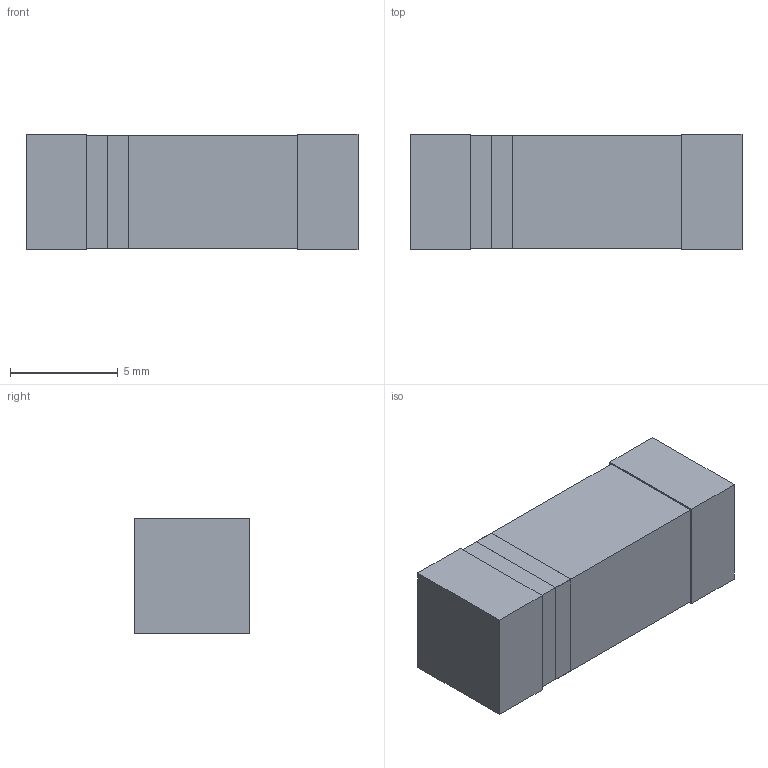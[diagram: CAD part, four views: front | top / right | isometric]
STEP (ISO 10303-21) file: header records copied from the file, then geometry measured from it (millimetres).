
FILE_DESCRIPTION(('STEP AP214'),'1');
FILE_NAME('FUSE_3403_0266_SCH','2023-11-24T02:19:33',(''),(''),'','','');
FILE_SCHEMA(('AUTOMOTIVE_DESIGN'));
Length unit declared in the file: millimetre
Products named in the file (1): product
Bounding box: 15.39 x 5.36 x 5.36 mm (x, y, z)
Volume: 426.3 mm3; surface area: 534 mm2
Topology: 4 solids, 4 shells, 30 faces, 64 edges, 40 vertices
Faces by surface type: plane 30
Entity records: 916 total; most frequent: ORIENTED_EDGE 128, DIRECTION 126, CARTESIAN_POINT 71, EDGE_CURVE 64, LINE 64, VECTOR 64, VERTEX_POINT 40, AXIS2_PLACEMENT_3D 31
